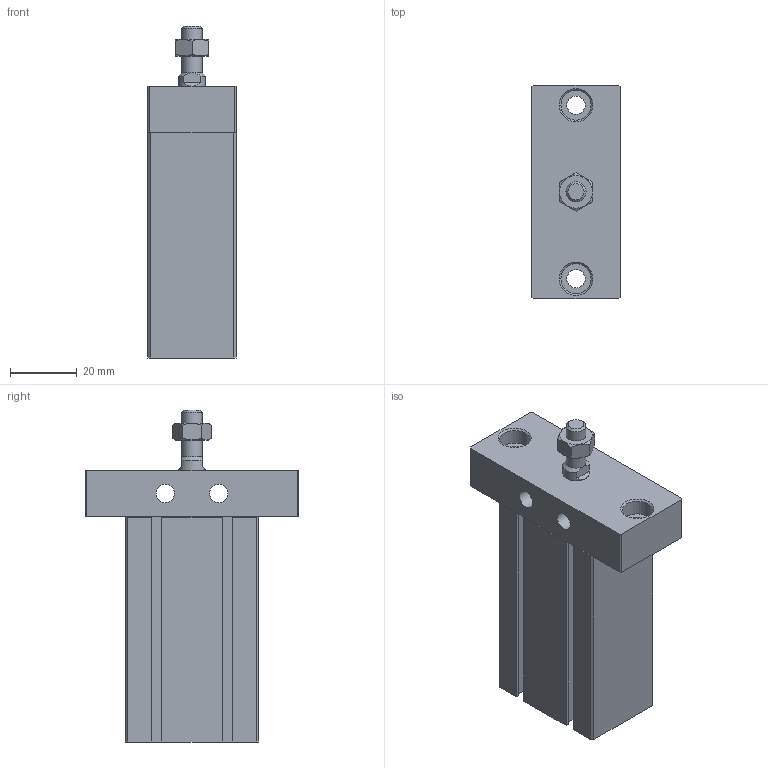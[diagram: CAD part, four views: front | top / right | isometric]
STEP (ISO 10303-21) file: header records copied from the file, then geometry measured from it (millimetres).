
FILE_DESCRIPTION((''),'2;1');
FILE_NAME('J:\3D電子目錄\氣缸\ND\ND\ND20-FBS\ND20x30-FBS.stp','2008-03-13T09:46:06',('66-2f-008'),(''),'Autodesk Inventor 11','Autodesk Inventor 11','');
FILE_SCHEMA(('AUTOMOTIVE_DESIGN { 1 0 10303 214 1 1 1 1 }'));
Length unit declared in the file: millimetre
Products named in the file (1): ND20-FBS
Bounding box: 26.4 x 64 x 99.5 mm (x, y, z)
Volume: 85606.4 mm3; surface area: 21310 mm2
Topology: 2 solids, 2 shells, 128 faces, 330 edges, 211 vertices
Faces by surface type: plane 85, cylinder 16, bspline 14, cone 12, torus 1
Full cylindrical faces by diameter (mm): 1.5 x2, 5.5 x2, 6 x2, 9 x2, 13 x1, 21 x1
Entity records: 3810 total; most frequent: CARTESIAN_POINT 843, ORIENTED_EDGE 588, DIRECTION 572, EDGE_CURVE 294, VECTOR 214, LINE 214, VERTEX_POINT 206, EDGE_LOOP 180
